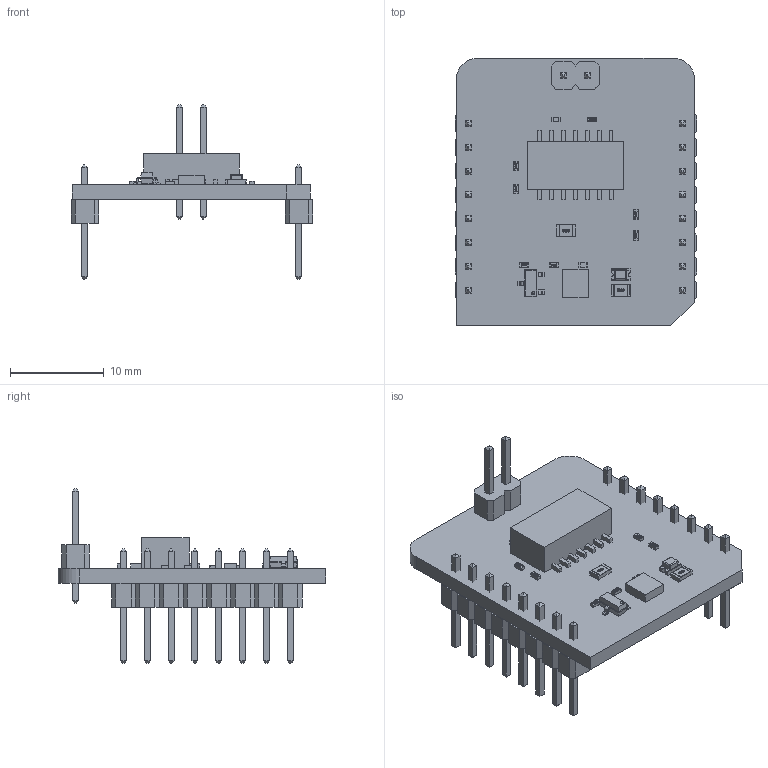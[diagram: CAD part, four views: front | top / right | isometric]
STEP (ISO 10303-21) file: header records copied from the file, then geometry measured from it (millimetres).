
FILE_DESCRIPTION(('Open CASCADE Model'),'2;1');
FILE_NAME('Open CASCADE Shape Model','2026-03-19T15:23:18',('Author'),( 'Open CASCADE'),'Open CASCADE STEP processor 6.8','Open CASCADE 6.8' ,'Unknown');
FILE_SCHEMA(('AUTOMOTIVE_DESIGN { 1 0 10303 214 1 1 1 1 }'));
Length unit declared in the file: millimetre
Products named in the file (37): PCB; Board; R8; User_Library-R_0402; R7; J1; User_Library-Pin_Header_Strip_1x2; R3; C2; User_Library-SMD_CAPACITOR0402; U3; 1195630264; Extruded; 1195629992; R6; R5; JP1; User_Library-R_0805; MBD1; Header_1x8; Free-Models; 1240637040; User_Library-PinHeaderX5-1_PinHeaderX5_Body_1; User_Library-PinHeaderX5-1_PinHeaderX5_Pins_1; U1; 1195633936; Q1; SOT23-3; R4; C1; R2; LD1; led_0805_green; R1
Assembly tree (59 placements, depth 7):
  PCB
    Board
    R8
      User_Library-R_0402
    R7
      User_Library-R_0402
    J1
      User_Library-Pin_Header_Strip_1x2
    R3
      User_Library-R_0402
    C2
      User_Library-SMD_CAPACITOR0402
    U3
      1195630264  x14
        Extruded
      1195629992
        Extruded
    R6
      User_Library-R_0402
    R5
      User_Library-R_0402
    JP1
      User_Library-R_0805
    MBD1
      Header_1x8  x2
        PCB
          Free-Models
            1240637040  x2
              User_Library-PinHeaderX5-1_PinHeaderX5_Body_1
              User_Library-PinHeaderX5-1_PinHeaderX5_Pins_1
    U1
      1195633936
        Extruded
    Q1
      SOT23-3
    R4
      User_Library-R_0402
    C1
      User_Library-SMD_CAPACITOR0402
    R2
      User_Library-R_0402
    LD1
      led_0805_green
    R1
      User_Library-R_0805
Bounding box: 25.78 x 28.57 x 18.62 mm (x, y, z)
Volume: 1847.6 mm3; surface area: 3393.6 mm2
Topology: 66 solids, 66 shells, 1627 faces, 4021 edges, 2582 vertices
Faces by surface type: plane 1282, bspline 266, cylinder 57, sphere 22
Entity records: 22968 total; most frequent: CARTESIAN_POINT 7112, ORIENTED_EDGE 2596, DIRECTION 2295, EDGE_CURVE 1298, LINE 1073, VECTOR 1073, VERTEX_POINT 828, AXIS2_PLACEMENT_3D 611
